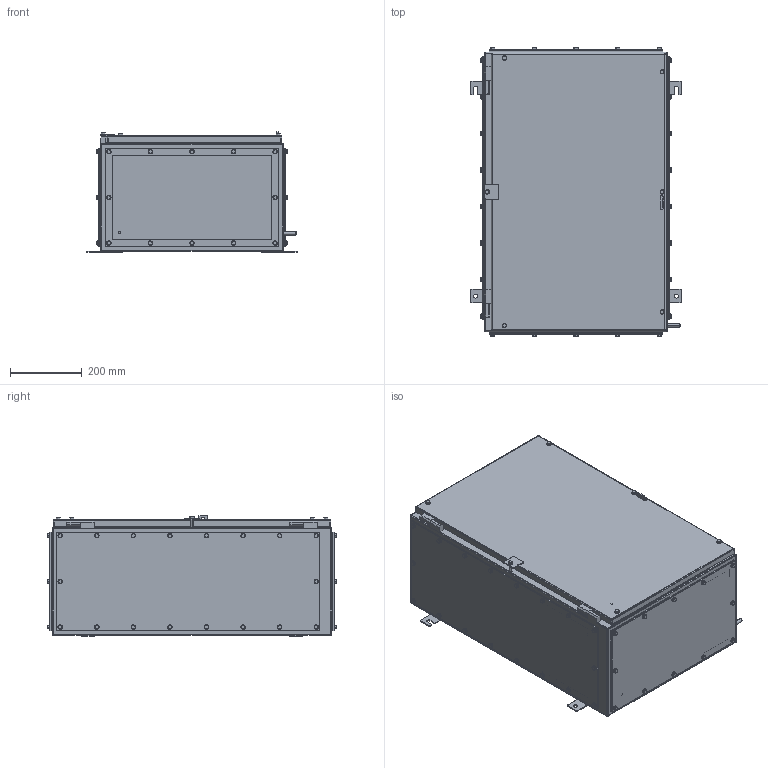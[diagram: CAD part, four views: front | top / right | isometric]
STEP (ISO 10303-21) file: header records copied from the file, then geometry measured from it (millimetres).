
FILE_DESCRIPTION (( 'STEP AP203' ), '1' );
FILE_NAME ('SX6_300_4GP.STEP', '2021-05-20T08:24:05', ( '' ), ( '' ), 'SwSTEP 2.0', 'SolidWorks 2020', '' );
FILE_SCHEMA (( 'CONFIG_CONTROL_DESIGN' ));
Length unit declared in the file: millimetre
Products named in the file (11): SX6 Door; SX6_300_4GP; hex screw gradec_bsi_BS EN 24018 - M6 x 20-WN; SX6-300 Base Gasket; SX6-300 side Gasket; hex screw gradec_bsi_BS EN 24018 - M6 x 16-WN; SX6_300_4GP Body; SX6-300 Base Gland plate; SX6-300 side Gland plate; plain washer form a_bsi_Bright washer BS 4320 - M6 (Form A); hex screw gradec_iso_ISO 4018 - M6 x 30-WN
Assembly tree (142 placements, depth 2):
  SX6_300_4GP
    SX6_300_4GP Body
    SX6-300 Base Gasket  x2
    SX6-300 side Gasket  x2
    SX6-300 side Gland plate  x2
    SX6-300 Base Gland plate  x2
    hex screw gradec_bsi_BS EN 24018 - M6 x 16-WN  x60
    plain washer form a_bsi_Bright washer BS 4320 - M6 (Form A)  x66
    SX6 Door
    hex screw gradec_bsi_BS EN 24018 - M6 x 20-WN  x5
    hex screw gradec_iso_ISO 4018 - M6 x 30-WN
Bounding box: 590 x 803.95 x 336 mm (x, y, z)
Volume: 4922510.4 mm3; surface area: 4120719.5 mm2
Topology: 142 solids, 142 shells, 3281 faces, 7126 edges, 4312 vertices
Faces by surface type: plane 1479, cylinder 1212, cone 538, sphere 44, torus 8
Entity records: 34917 total; most frequent: DIRECTION 5854, CARTESIAN_POINT 5167, ORIENTED_EDGE 4660, AXIS2_PLACEMENT_3D 2383, EDGE_CURVE 2330, VERTEX_POINT 1480, EDGE_LOOP 1348, CIRCLE 1206
